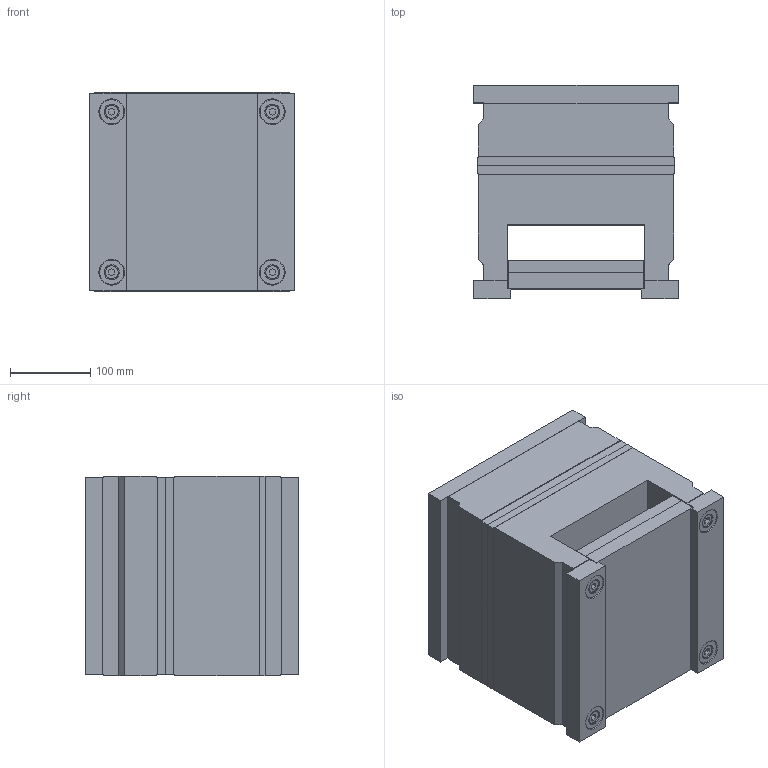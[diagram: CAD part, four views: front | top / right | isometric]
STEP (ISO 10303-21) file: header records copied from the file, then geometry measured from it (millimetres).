
FILE_DESCRIPTION (( 'STEP AP214' ), '1' );
FILE_NAME ('2461.STEP', '2002-07-10T07:53:42', ( 'Simcha Kilim' ), ( 'K. Plastics Engineering' ), 'SwSTEP 2.0', 'SolidWorks 2002025', '' );
FILE_SCHEMA (( 'AUTOMOTIVE_DESIGN' ));
Length unit declared in the file: millimetre
Products named in the file (12): 2461; ALMO (ejector half)_2461; ALMO (hot half)_2461; ALMO (guide bush)_Ø19; ALMO (guide pin)_Ø19; ALMO (guide bush)_Ø18; ALMO (key plate)_Ø18; ALMO (ejector plate)_2461; ALMO (ejector return plate)_2461; ALMO (screw)_M10x70; ALMO (guide pin)_Ø18; ALMO (screw)_M10x120
Assembly tree (28 placements, depth 2):
  2461
    ALMO (guide pin)_Ø18  x3
    ALMO (guide pin)_Ø19
    ALMO (guide bush)_Ø18  x3
    ALMO (screw)_M10x70  x4
    ALMO (ejector return plate)_2461
    ALMO (key plate)_Ø18  x8
    ALMO (ejector half)_2461
    ALMO (screw)_M10x120  x4
    ALMO (hot half)_2461
    ALMO (ejector plate)_2461
    ALMO (guide bush)_Ø19
Bounding box: 255 x 266 x 248 mm (x, y, z)
Volume: 13518569.1 mm3; surface area: 920062.5 mm2
Topology: 28 solids, 28 shells, 706 faces, 1496 edges, 924 vertices
Faces by surface type: cylinder 260, plane 254, cone 192
Entity records: 10477 total; most frequent: DIRECTION 1914, CARTESIAN_POINT 1683, ORIENTED_EDGE 1584, EDGE_CURVE 792, AXIS2_PLACEMENT_3D 729, VERTEX_POINT 498, LINE 456, VECTOR 456
